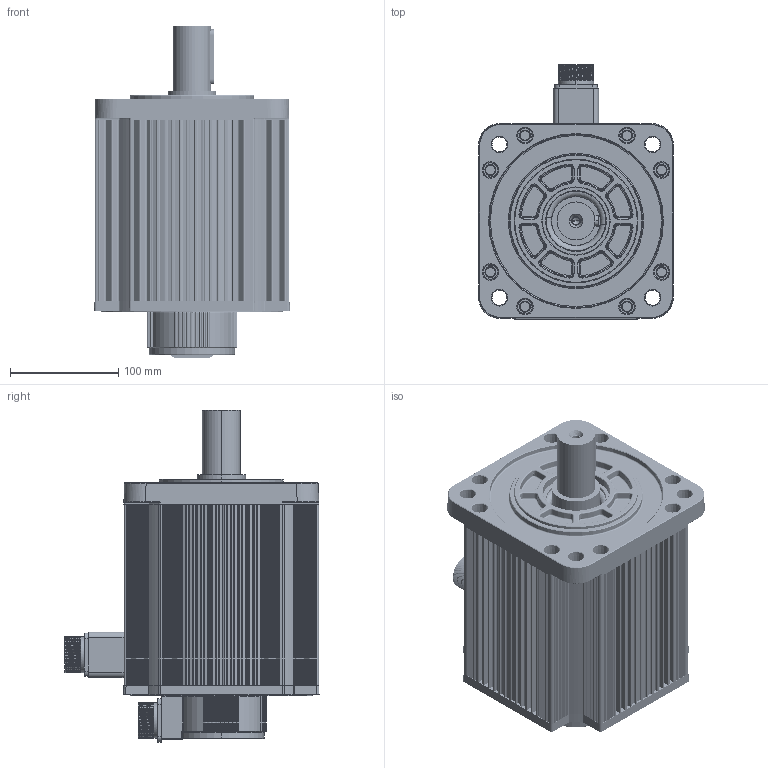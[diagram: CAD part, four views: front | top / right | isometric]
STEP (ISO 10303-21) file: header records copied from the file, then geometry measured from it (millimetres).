
FILE_DESCRIPTION (( 'STEP AP203' ), '1' );
FILE_NAME ('180zf1500r4kw.STEP', '2024-10-23T06:02:38', ( 'MicroSoft' ), ( 'MicroSoft' ), 'SwSTEP 2.0', 'SolidWorks 2020', '' );
FILE_SCHEMA (( 'CONFIG_CONTROL_DESIGN' ));
Length unit declared in the file: millimetre
Products named in the file (14): 180綴粣創; 180后端盖 新款 1_制动后盖1; 180呿蹋晤鎢ん欶褲; Z航插15芯（公头电机端）28; 180ヶ粣創; 180ヶ傷裔陔遴 1; 180堤盄碟; Z航空插头-4芯（公头电机端）32; 180 平键（14-9-91）; 180zf1500r4kw; 180-X陔遴儂褲_4; Z130A-01-02(编码器后罩壳）; Z130A-01-03(编码器后罩壳封盖）; Z180-01-01A(180电机轴-锥轴全系列)-3000_5.5KW
Assembly tree (13 placements, depth 3):
  180zf1500r4kw
    180-X陔遴儂褲_4
    180ヶ傷裔陔遴 1
    180后端盖 新款 1_制动后盖1
    Z180-01-01A(180电机轴-锥轴全系列)-3000_5.5KW
    180ヶ粣創
    180綴粣創
    180堤盄碟
    Z航空插头-4芯（公头电机端）32
    Z航插15芯（公头电机端）28
    180 平键（14-9-91）
    180呿蹋晤鎢ん欶褲
      Z130A-01-02(编码器后罩壳）
    Z130A-01-03(编码器后罩壳封盖）
Bounding box: 180.31 x 234.51 x 306.5 mm (x, y, z)
Volume: 2187741.5 mm3; surface area: 624208.7 mm2
Topology: 12 solids, 12 shells, 4850 faces, 12502 edges, 7711 vertices
Faces by surface type: cylinder 1831, plane 1351, bspline 688, torus 506, cone 292, sphere 182
Entity records: 179653 total; most frequent: CARTESIAN_POINT 62739, ORIENTED_EDGE 24652, DIRECTION 24283, EDGE_CURVE 12326, AXIS2_PLACEMENT_3D 9383, VERTEX_POINT 7677, LINE 5517, VECTOR 5517
